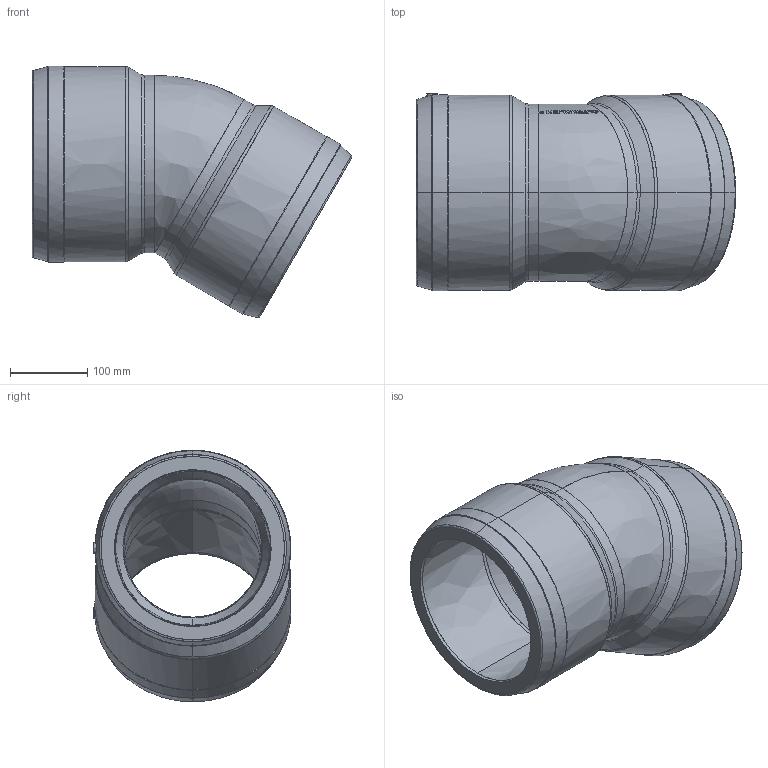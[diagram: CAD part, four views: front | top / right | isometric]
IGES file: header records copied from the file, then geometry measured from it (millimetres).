
Start section:  PTC IGES file: w30_d200_01.igs
Global section: file name: w30_d200_01.igs; native system: Pro/ENGINEER by Parametric Technology Corporation; preprocessor: 2011490; author: mtunjic; organization: Unknown; date: 20130812.094930; units: millimetre
Bounding box: 414.36 x 256.05 x 326.26 mm (x, y, z)
Surface area: 559892 mm2 (no closed solid volume)
Topology: 0 solids, 0 shells, 262 faces, 1322 edges, 1320 vertices
Faces by surface type: bspline 262
